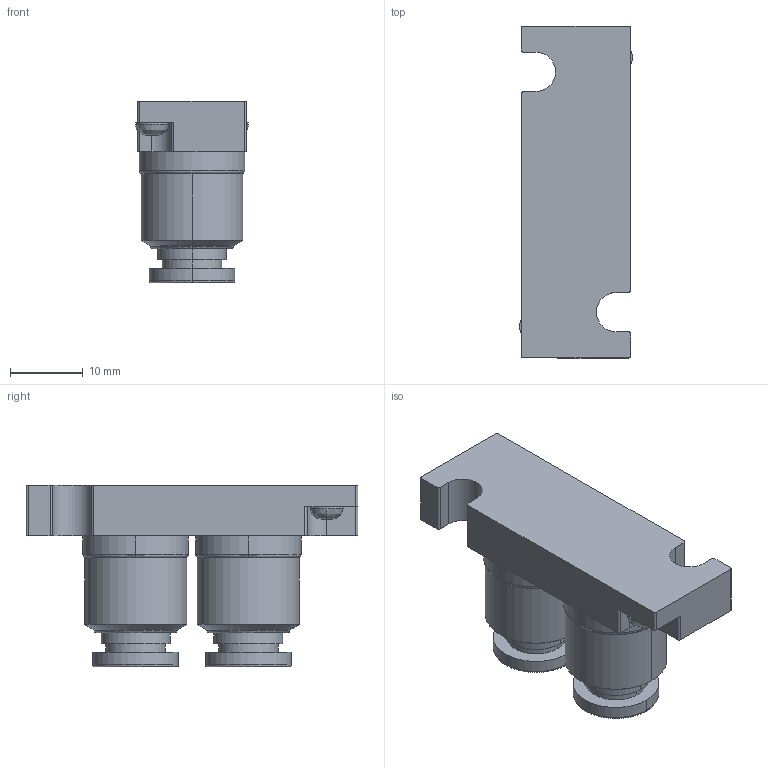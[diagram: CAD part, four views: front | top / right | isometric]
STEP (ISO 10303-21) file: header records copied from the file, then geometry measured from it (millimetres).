
FILE_DESCRIPTION( (''), '2;1');
FILE_NAME ('CVICAD02.6296.F15_Port-VJ5_23575.stp','2021-07-12T19:23:25',(''),(''),'spGate 12.6.6','','');
FILE_SCHEMA (('AUTOMOTIVE_DESIGN'));
Length unit declared in the file: millimetre
Bounding box: 15.5 x 45.6 x 25 mm (x, y, z)
Volume: 8269.8 mm3; surface area: 4457 mm2
Topology: 1 solids, 1 shells, 102 faces, 238 edges, 150 vertices
Faces by surface type: cylinder 48, plane 34, bspline 20
Entity records: 5221 total; most frequent: CARTESIAN_POINT 992, ORIENTED_EDGE 476, DIRECTION 468, COLOUR_RGB 341, PRESENTATION_STYLE_ASSIGNMENT 341, STYLED_ITEM 341, EDGE_CURVE 238, DRAUGHTING_PRE_DEFINED_CURVE_FONT 238
